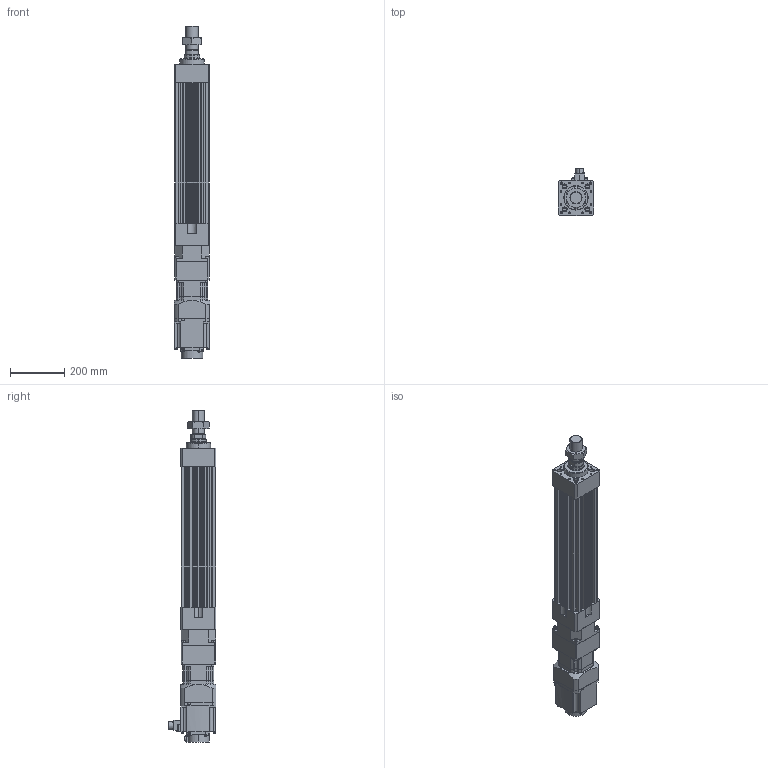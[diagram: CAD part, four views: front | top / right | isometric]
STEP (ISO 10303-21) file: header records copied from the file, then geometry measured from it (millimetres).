
FILE_DESCRIPTION (( 'STEP AP203' ), '1' );
FILE_NAME ('HES130NS(FS)(HS)-S300-W015G00-M.STEP', '2023-01-30T08:07:15', ( 'tms' ), ( '' ), 'SwSTEP 2.0', 'SolidWorks 2013', '' );
FILE_SCHEMA (( 'CONFIG_CONTROL_DESIGN' ));
Length unit declared in the file: millimetre
Products named in the file (8): M45X1.5P; HES130 ROD M ST300; HG-SR152; P0401400706; HES130NS(FS)(HS)-S300-W015G00-M; AB115-003[HG-SR152]; HES130-S300-G120; AB1151
Assembly tree (7 placements, depth 3):
  HES130NS(FS)(HS)-S300-W015G00-M
    HES130-S300-G120
    HES130 ROD M ST300
    M45X1.5P
    AB115-003[HG-SR152]
      AB1151
      P0401400706
    HG-SR152
Bounding box: 130 x 177.49 x 1229.5 mm (x, y, z)
Volume: 9555174.1 mm3; surface area: 1206326 mm2
Topology: 4 solids, 15 shells, 1220 faces, 3076 edges, 1983 vertices
Faces by surface type: cylinder 553, plane 551, cone 104, bspline 8, torus 4
Entity records: 38254 total; most frequent: CARTESIAN_POINT 7242, DIRECTION 6653, ORIENTED_EDGE 6060, EDGE_CURVE 3040, AXIS2_PLACEMENT_3D 2462, VERTEX_POINT 1983, LINE 1729, VECTOR 1729
